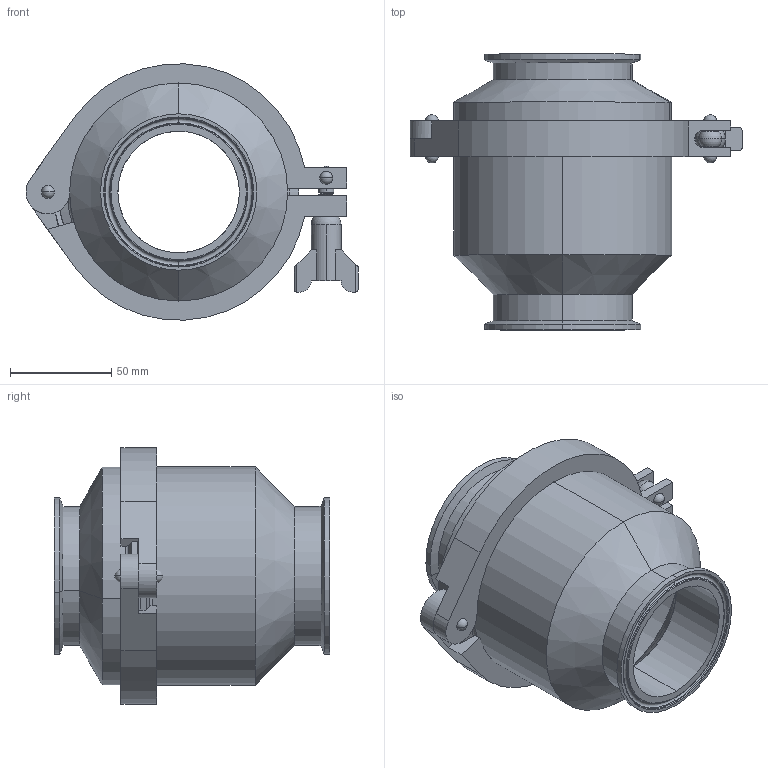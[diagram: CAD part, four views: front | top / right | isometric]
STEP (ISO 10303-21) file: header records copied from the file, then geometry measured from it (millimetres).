
FILE_DESCRIPTION (( 'STEP AP203' ), '1' );
FILE_NAME ('45C-6 2.5.STEP', '2019-11-14T20:39:24', ( 'vneprd' ), ( 'Microsoft' ), 'SwSTEP 2.0', 'SolidWorks 2018', '' );
FILE_SCHEMA (( 'CONFIG_CONTROL_DESIGN' ));
Length unit declared in the file: inch
Products named in the file (1): 45C-6 2.5
Bounding box: 164.32 x 136.53 x 126.85 mm (x, y, z)
Volume: 325181.5 mm3; surface area: 145503.4 mm2
Topology: 9 solids, 9 shells, 284 faces, 683 edges, 426 vertices
Faces by surface type: cylinder 125, plane 59, cone 43, torus 40, sphere 14, bspline 3
Entity records: 12670 total; most frequent: CARTESIAN_POINT 6116, DIRECTION 1402, ORIENTED_EDGE 1362, EDGE_CURVE 681, AXIS2_PLACEMENT_3D 573, VERTEX_POINT 426, EDGE_LOOP 313, CIRCLE 291
